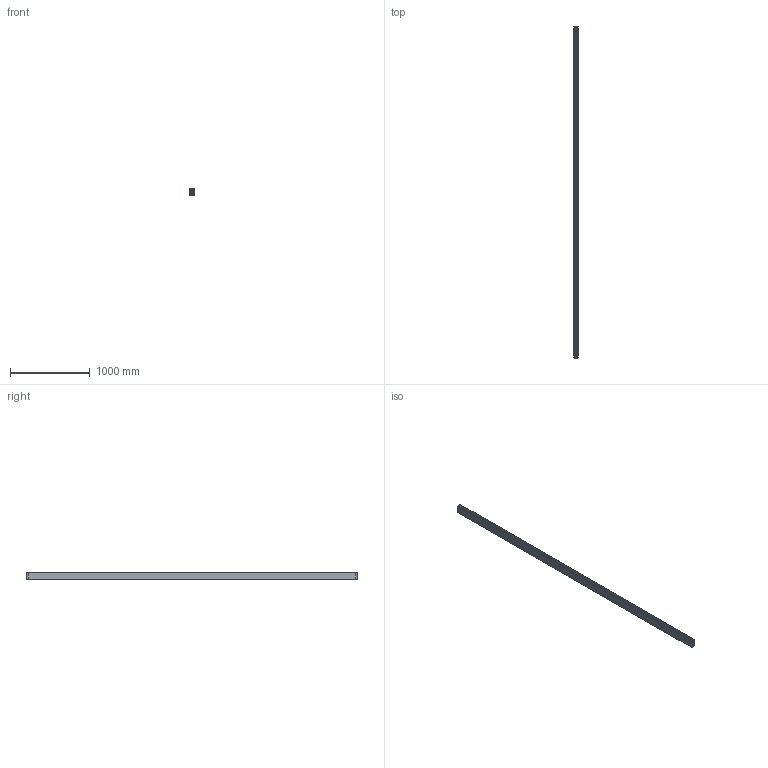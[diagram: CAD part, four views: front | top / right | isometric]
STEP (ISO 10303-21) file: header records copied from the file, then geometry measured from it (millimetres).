
FILE_DESCRIPTION (( 'STEP AP214' ), '1' );
FILE_NAME ('1001781.STEP', '2025-10-06T09:02:50', ( '' ), ( '' ), 'SwSTEP 2.0', 'SolidWorks 2025', '' );
FILE_SCHEMA (( 'AUTOMOTIVE_DESIGN' ));
Length unit declared in the file: millimetre
Products named in the file (1): 1001781
Bounding box: 60 x 4154.8 x 91.25 mm (x, y, z)
Volume: 9998488.1 mm3; surface area: 4007148.4 mm2
Topology: 17 solids, 17 shells, 1102 faces, 3030 edges, 1970 vertices
Faces by surface type: plane 654, cylinder 357, torus 68, cone 9, bspline 8, sphere 6
Entity records: 35426 total; most frequent: CARTESIAN_POINT 6747, ORIENTED_EDGE 6036, DIRECTION 5947, EDGE_CURVE 3018, VECTOR 2143, LINE 2143, VERTEX_POINT 1964, AXIS2_PLACEMENT_3D 1902
